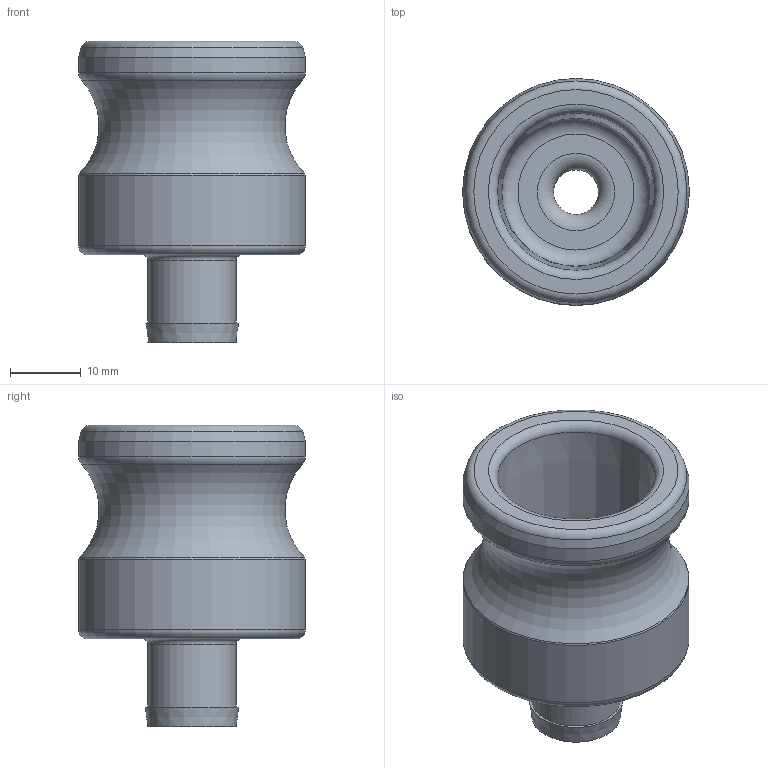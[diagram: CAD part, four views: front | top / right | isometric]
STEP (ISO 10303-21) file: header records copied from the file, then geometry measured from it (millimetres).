
FILE_DESCRIPTION(/* description */ ('Alibre Inc.'),/* implementation_level */ '2;1');
FILE_NAME(/* name */ 'export0',/* time_stamp */ '2017-02-12T13:47:40-05:00',/* author */ (''),/* organization */ (''),/* preprocessor_version */ 'ST-DEVELOPER v14',/* originating_system */ 'Alibre',/* authorisation */ '');
FILE_SCHEMA (('CONFIG_CONTROL_DESIGN'));
Length unit declared in the file: centimetre
Products named in the file (1): ID_1
Bounding box: 32.11 x 32.11 x 42.67 mm (x, y, z)
Volume: 14669.1 mm3; surface area: 6657.4 mm2
Topology: 1 solids, 1 shells, 21 faces, 37 edges, 21 vertices
Faces by surface type: torus 8, plane 5, cylinder 4, cone 4
Full cylindrical faces by diameter (mm): 6.35 x1, 12.497 x1, 32.106 x2
Entity records: 500 total; most frequent: DIRECTION 71, CARTESIAN_POINT 63, ORIENTED_EDGE 42, EDGE_LOOP 42, FACE_BOUND 42, AXIS2_PLACEMENT_3D 42, VERTEX_POINT 21, CIRCLE 21
